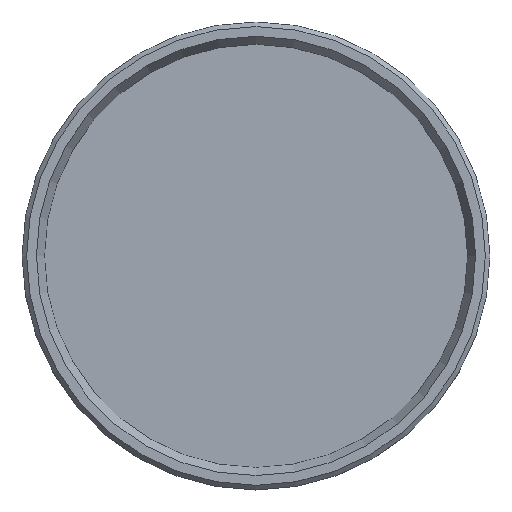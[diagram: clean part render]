
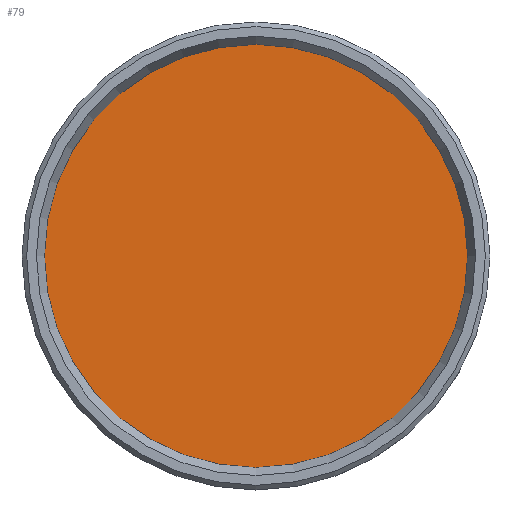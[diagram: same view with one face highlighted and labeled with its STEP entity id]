
A CAD part, top view. The second image highlights one B-rep face of the part: STEP entity #79.
In plain terms, the highlighted planar face has unit normal (0, 0, 1).
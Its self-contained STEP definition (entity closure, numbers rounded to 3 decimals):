
#17=PLANE('',#104);
#24=FACE_OUTER_BOUND('',#31,.T.);
#31=EDGE_LOOP('',(#71));
#43=CIRCLE('',#103,9.204);
#48=VERTEX_POINT('',#148);
#56=EDGE_CURVE('',#48,#48,#43,.T.);
#71=ORIENTED_EDGE('',*,*,#56,.F.);
#79=ADVANCED_FACE('',(#24),#17,.T.);
#103=AXIS2_PLACEMENT_3D('',#150,#127,#128);
#104=AXIS2_PLACEMENT_3D('',#151,#129,#130);
#127=DIRECTION('center_axis',(0.,0.,-1.));
#128=DIRECTION('ref_axis',(-1.,0.,0.));
#129=DIRECTION('center_axis',(0.,0.,1.));
#130=DIRECTION('ref_axis',(-1.,0.,0.));
#148=CARTESIAN_POINT('',(9.204,0.,2.54));
#150=CARTESIAN_POINT('Origin',(0.,0.,2.54));
#151=CARTESIAN_POINT('Origin',(0.,0.,2.54));
